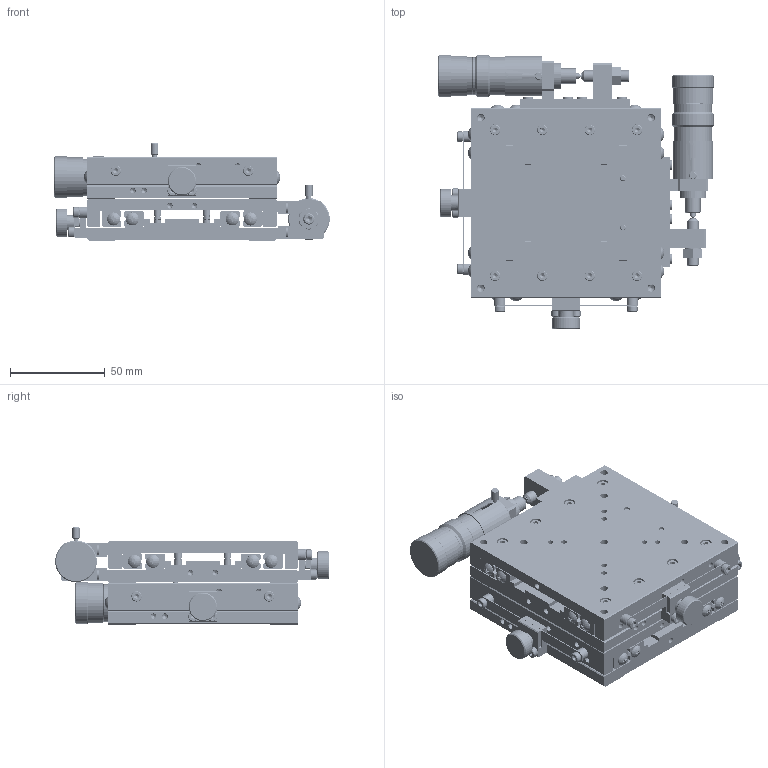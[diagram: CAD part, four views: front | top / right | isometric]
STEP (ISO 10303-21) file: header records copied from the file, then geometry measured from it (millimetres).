
FILE_DESCRIPTION (( 'STEP AP214' ), '1' );
FILE_NAME ('YM10A-S3-CL.STEP', '2009-05-11T08:11:27', ( ' ' ), ( ' ' ), 'SwSTEP 2.0', 'SolidWorks 2008', '' );
FILE_SCHEMA (( 'AUTOMOTIVE_DESIGN' ));
Length unit declared in the file: millimetre
Products named in the file (6): XM10A-S3-CL(PL)-1; XM10A-S3-CL(PL); 001130-1011(3D); 001130-1011(3D)-1; 001130-1022(3D); YM10A-S3-CL
Assembly tree (5 placements, depth 3):
  YM10A-S3-CL
    XM10A-S3-CL(PL)-1
      001130-1011(3D)-1
      001130-1022(3D)
    XM10A-S3-CL(PL)
      001130-1011(3D)
Bounding box: 145.5 x 144.5 x 51.5 mm (x, y, z)
Volume: 424630.9 mm3; surface area: 158825.2 mm2
Topology: 3 solids, 117 shells, 3916 faces, 9122 edges, 5442 vertices
Faces by surface type: plane 1808, cylinder 1178, cone 864, sphere 34, torus 32
Entity records: 110547 total; most frequent: DIRECTION 20414, CARTESIAN_POINT 19466, ORIENTED_EDGE 17772, EDGE_CURVE 8886, AXIS2_PLACEMENT_3D 7792, VERTEX_POINT 5440, VECTOR 4830, LINE 4830
